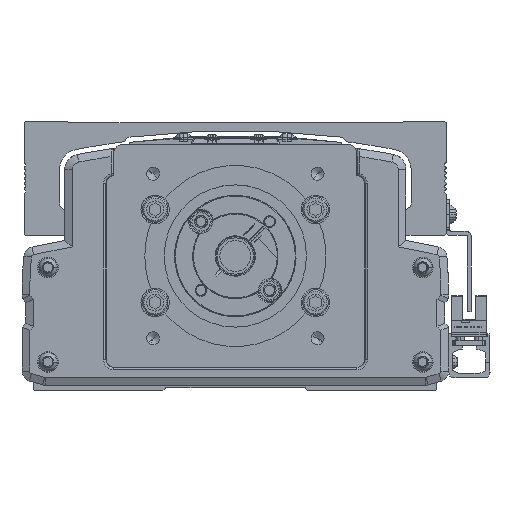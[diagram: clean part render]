
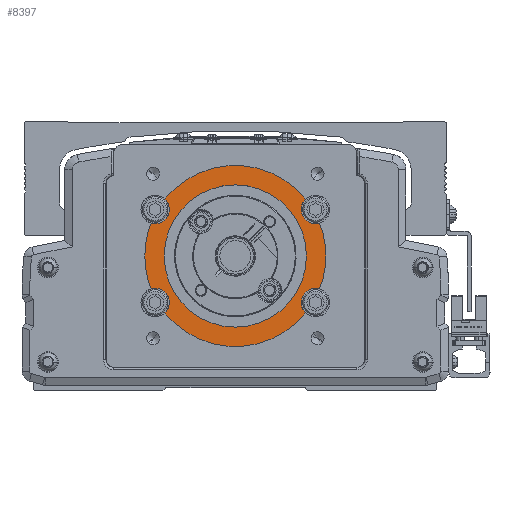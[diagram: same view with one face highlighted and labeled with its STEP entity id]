
A CAD part, front view. The second image highlights one B-rep face of the part: STEP entity #8397.
In plain terms, the highlighted planar face has unit normal (0, -1, 0).
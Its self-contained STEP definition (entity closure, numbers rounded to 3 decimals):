
#8397=ADVANCED_FACE('',(#18150,#18151),#18152,.F.);
#18150=FACE_OUTER_BOUND('',#31547,.T.);
#18151=FACE_BOUND('',#31548,.T.);
#18152=PLANE('',#31549);
#31547=EDGE_LOOP('',(#55818,#55819,#55820,#55821,#55822,#55823,#55824,#55825,#55826,#55827,#55828,#55829,#55830,#55831));
#31548=EDGE_LOOP('',(#55832,#55833));
#31549=AXIS2_PLACEMENT_3D('',#55834,#55835,#55836);
#55818=ORIENTED_EDGE('',*,*,#74362,.F.);
#55819=ORIENTED_EDGE('',*,*,#79683,.T.);
#55820=ORIENTED_EDGE('',*,*,#79684,.T.);
#55821=ORIENTED_EDGE('',*,*,#73080,.F.);
#55822=ORIENTED_EDGE('',*,*,#79685,.F.);
#55823=ORIENTED_EDGE('',*,*,#78333,.T.);
#55824=ORIENTED_EDGE('',*,*,#79686,.F.);
#55825=ORIENTED_EDGE('',*,*,#79687,.F.);
#55826=ORIENTED_EDGE('',*,*,#79688,.T.);
#55827=ORIENTED_EDGE('',*,*,#79612,.T.);
#55828=ORIENTED_EDGE('',*,*,#79689,.F.);
#55829=ORIENTED_EDGE('',*,*,#70564,.F.);
#55830=ORIENTED_EDGE('',*,*,#75628,.T.);
#55831=ORIENTED_EDGE('',*,*,#73550,.F.);
#55832=ORIENTED_EDGE('',*,*,#74405,.F.);
#55833=ORIENTED_EDGE('',*,*,#79690,.F.);
#55834=CARTESIAN_POINT('',(-600.,-146.778,0.));
#55835=DIRECTION('',(0.,1.0,0.));
#55836=DIRECTION('',(-1.0,0.,0.));
#70564=EDGE_CURVE('',#83663,#83665,#83666,.T.);
#73080=EDGE_CURVE('',#88089,#88091,#88092,.T.);
#73550=EDGE_CURVE('',#88899,#88901,#88902,.T.);
#74362=EDGE_CURVE('',#90220,#88899,#90222,.T.);
#74405=EDGE_CURVE('',#90290,#90286,#90292,.T.);
#75628=EDGE_CURVE('',#83663,#88901,#92232,.T.);
#78333=EDGE_CURVE('',#96224,#96226,#96228,.T.);
#79612=EDGE_CURVE('',#97949,#97951,#97953,.T.);
#79683=EDGE_CURVE('',#90220,#98050,#98051,.T.);
#79684=EDGE_CURVE('',#98050,#88091,#98052,.T.);
#79685=EDGE_CURVE('',#96224,#88089,#98053,.T.);
#79686=EDGE_CURVE('',#98054,#96226,#98055,.T.);
#79687=EDGE_CURVE('',#98056,#98054,#98057,.T.);
#79688=EDGE_CURVE('',#98056,#97949,#98058,.T.);
#79689=EDGE_CURVE('',#83665,#97951,#98059,.T.);
#79690=EDGE_CURVE('',#90286,#90290,#98060,.T.);
#83663=VERTEX_POINT('',#102777);
#83665=VERTEX_POINT('',#102780);
#83666=CIRCLE('',#102781,5.5);
#88089=VERTEX_POINT('',#109247);
#88091=VERTEX_POINT('',#109250);
#88092=CIRCLE('',#109251,5.5);
#88899=VERTEX_POINT('',#110357);
#88901=VERTEX_POINT('',#110360);
#88902=CIRCLE('',#110361,5.5);
#90220=VERTEX_POINT('',#112206);
#90222=CIRCLE('',#112209,5.5);
#90286=VERTEX_POINT('',#112307);
#90290=VERTEX_POINT('',#112312);
#90292=CIRCLE('',#112315,27.5);
#92232=CIRCLE('',#115072,35.0);
#96224=VERTEX_POINT('',#120958);
#96226=VERTEX_POINT('',#120961);
#96228=CIRCLE('',#120964,35.0);
#97949=VERTEX_POINT('',#123543);
#97951=VERTEX_POINT('',#123546);
#97953=CIRCLE('',#123549,35.0);
#98050=VERTEX_POINT('',#123670);
#98051=CIRCLE('',#123671,35.0);
#98052=CIRCLE('',#123672,35.0);
#98053=CIRCLE('',#123673,5.5);
#98054=VERTEX_POINT('',#123674);
#98055=CIRCLE('',#123675,5.5);
#98056=VERTEX_POINT('',#123676);
#98057=CIRCLE('',#123677,5.5);
#98058=CIRCLE('',#123678,35.0);
#98059=CIRCLE('',#123679,5.5);
#98060=CIRCLE('',#123680,27.5);
#102777=CARTESIAN_POINT('',(-572.777,-146.778,21.998));
#102780=CARTESIAN_POINT('',(-574.5,-146.778,18.));
#102781=AXIS2_PLACEMENT_3D('',#129855,#129856,#129857);
#109247=CARTESIAN_POINT('',(-625.5,-146.778,-18.));
#109250=CARTESIAN_POINT('',(-632.6,-146.778,-12.738));
#109251=AXIS2_PLACEMENT_3D('',#133387,#133388,#133389);
#110357=CARTESIAN_POINT('',(-625.5,-146.778,18.));
#110360=CARTESIAN_POINT('',(-627.223,-146.778,21.998));
#110361=AXIS2_PLACEMENT_3D('',#134095,#134096,#134097);
#112206=CARTESIAN_POINT('',(-632.6,-146.778,12.738));
#112209=AXIS2_PLACEMENT_3D('',#135153,#135154,#135155);
#112307=CARTESIAN_POINT('',(-627.5,-146.778,0.));
#112312=CARTESIAN_POINT('',(-572.5,-146.778,0.));
#112315=AXIS2_PLACEMENT_3D('',#135198,#135199,#135200);
#115072=AXIS2_PLACEMENT_3D('',#137001,#137002,#137003);
#120958=CARTESIAN_POINT('',(-627.223,-146.778,-21.998));
#120961=CARTESIAN_POINT('',(-572.777,-146.778,-21.998));
#120964=AXIS2_PLACEMENT_3D('',#140471,#140472,#140473);
#123543=CARTESIAN_POINT('',(-565.,-146.778,0.));
#123546=CARTESIAN_POINT('',(-567.4,-146.778,12.738));
#123549=AXIS2_PLACEMENT_3D('',#142025,#142026,#142027);
#123670=CARTESIAN_POINT('',(-635.,-146.778,0.));
#123671=AXIS2_PLACEMENT_3D('',#142130,#142131,#142132);
#123672=AXIS2_PLACEMENT_3D('',#142133,#142134,#142135);
#123673=AXIS2_PLACEMENT_3D('',#142136,#142137,#142138);
#123674=CARTESIAN_POINT('',(-574.5,-146.778,-18.));
#123675=AXIS2_PLACEMENT_3D('',#142139,#142140,#142141);
#123676=CARTESIAN_POINT('',(-567.4,-146.778,-12.738));
#123677=AXIS2_PLACEMENT_3D('',#142142,#142143,#142144);
#123678=AXIS2_PLACEMENT_3D('',#142145,#142146,#142147);
#123679=AXIS2_PLACEMENT_3D('',#142148,#142149,#142150);
#123680=AXIS2_PLACEMENT_3D('',#142151,#142152,#142153);
#129855=CARTESIAN_POINT('',(-569.,-146.778,18.));
#129856=DIRECTION('',(0.,-1.0,0.));
#129857=DIRECTION('',(1.0,0.,0.));
#133387=CARTESIAN_POINT('',(-631.,-146.778,-18.));
#133388=DIRECTION('',(0.,-1.0,0.));
#133389=DIRECTION('',(-1.0,0.,0.));
#134095=CARTESIAN_POINT('',(-631.,-146.778,18.));
#134096=DIRECTION('',(0.,-1.0,0.));
#134097=DIRECTION('',(-1.0,0.,0.));
#135153=CARTESIAN_POINT('',(-631.,-146.778,18.));
#135154=DIRECTION('',(0.,-1.0,0.));
#135155=DIRECTION('',(-1.0,0.,0.));
#135198=CARTESIAN_POINT('',(-600.,-146.778,0.));
#135199=DIRECTION('',(0.,-1.0,0.));
#135200=DIRECTION('',(-1.0,0.,0.));
#137001=CARTESIAN_POINT('',(-600.,-146.778,0.));
#137002=DIRECTION('',(0.,-1.0,0.));
#137003=DIRECTION('',(-1.0,0.,0.));
#140471=CARTESIAN_POINT('',(-600.,-146.778,0.));
#140472=DIRECTION('',(0.,-1.0,0.));
#140473=DIRECTION('',(-1.0,0.,0.));
#142025=CARTESIAN_POINT('',(-600.,-146.778,0.));
#142026=DIRECTION('',(0.,-1.0,0.));
#142027=DIRECTION('',(-1.0,0.,0.));
#142130=CARTESIAN_POINT('',(-600.,-146.778,0.));
#142131=DIRECTION('',(0.,-1.0,0.));
#142132=DIRECTION('',(-1.0,0.,0.));
#142133=CARTESIAN_POINT('',(-600.,-146.778,0.));
#142134=DIRECTION('',(0.,-1.0,0.));
#142135=DIRECTION('',(-1.0,0.,0.));
#142136=CARTESIAN_POINT('',(-631.,-146.778,-18.));
#142137=DIRECTION('',(0.,-1.0,0.));
#142138=DIRECTION('',(-1.0,0.,0.));
#142139=CARTESIAN_POINT('',(-569.,-146.778,-18.));
#142140=DIRECTION('',(0.,-1.0,0.));
#142141=DIRECTION('',(1.0,0.,0.));
#142142=CARTESIAN_POINT('',(-569.,-146.778,-18.));
#142143=DIRECTION('',(0.,-1.0,0.));
#142144=DIRECTION('',(1.0,0.,0.));
#142145=CARTESIAN_POINT('',(-600.,-146.778,0.));
#142146=DIRECTION('',(0.,-1.0,0.));
#142147=DIRECTION('',(-1.0,0.,0.));
#142148=CARTESIAN_POINT('',(-569.,-146.778,18.));
#142149=DIRECTION('',(0.,-1.0,0.));
#142150=DIRECTION('',(1.0,0.,0.));
#142151=CARTESIAN_POINT('',(-600.,-146.778,0.));
#142152=DIRECTION('',(0.,-1.0,0.));
#142153=DIRECTION('',(-1.0,0.,0.));
